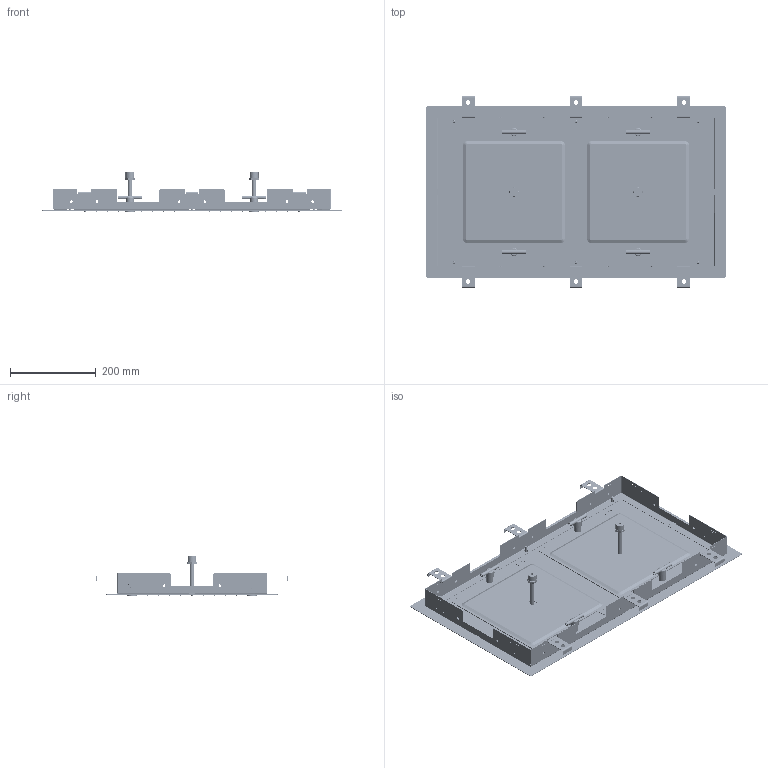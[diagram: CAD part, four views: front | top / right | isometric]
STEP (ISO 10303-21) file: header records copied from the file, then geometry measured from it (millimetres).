
FILE_DESCRIPTION (( 'STEP AP203' ), '1' );
FILE_NAME ('PIA6G.STEP', '2025-02-07T14:44:48', ( '' ), ( '' ), 'SwSTEP 2.0', 'SolidWorks 2024', '' );
FILE_SCHEMA (( 'CONFIG_CONTROL_DESIGN' ));
Length unit declared in the file: millimetre
Products named in the file (11): P-00100; M_1769; TELAIO 700 X 400; PIA6G; 21261; TUBONEB_GEDA UNICO; ATT MEZZO POLL; S-00235; T-RA034; 21414; PIASTRA 700 X 400  E NEBULIZZATORI
Assembly tree (100 placements, depth 3):
  PIA6G
    S-00235  x4
    21414  x2
      M_1769
      P-00100
      21261
    T-RA034  x6
    PIASTRA 700 X 400  E NEBULIZZATORI
    TELAIO 700 X 400
    ATT MEZZO POLL  x2
    TUBONEB_GEDA UNICO  x2
Bounding box: 700 x 448 x 94.5 mm (x, y, z)
Volume: 871508.2 mm3; surface area: 1407232.5 mm2
Topology: 180 solids, 180 shells, 8355 faces, 18131 edges, 10616 vertices
Faces by surface type: bspline 3950, cylinder 2708, plane 1313, cone 384
Entity records: 49483 total; most frequent: CARTESIAN_POINT 9818, DIRECTION 7836, ORIENTED_EDGE 7300, EDGE_CURVE 3650, AXIS2_PLACEMENT_3D 2967, VERTEX_POINT 2385, EDGE_LOOP 1917, LINE 1902
